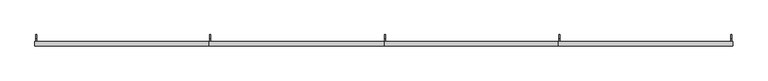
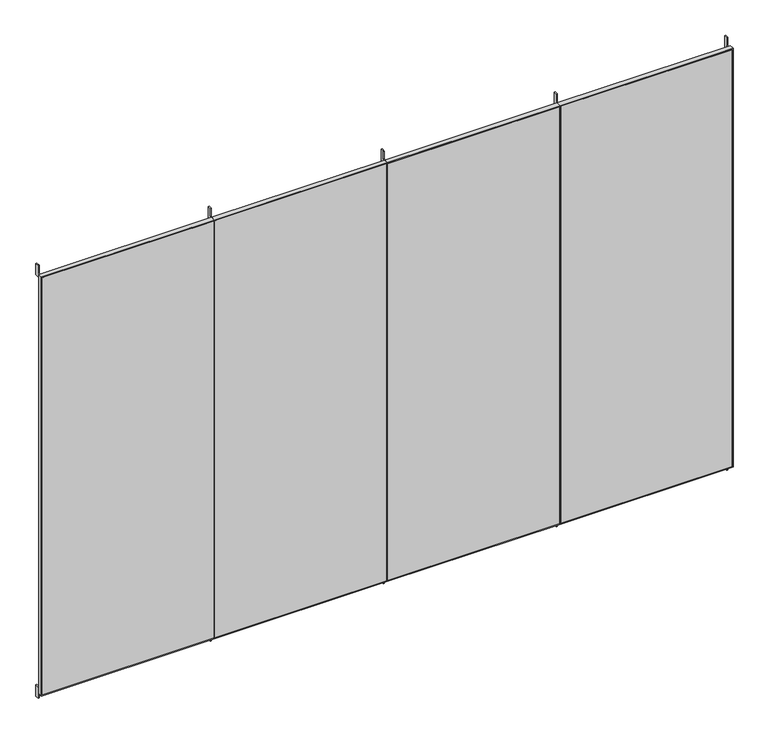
"""IFC4 building model written with IfcOpenShell, lengths in millimetres: furniture geometry, H04 Protección 4 módulos : H4.4 Protección 4 módulos 486x315."""

import ifcopenshell
import ifcopenshell.guid

model = None  # the IFC model being written
_history = None  # IfcOwnerHistory: only IFC2X3 demands one
_inside = {}  # id of a spatial element -> (the spatial element, [elements in it])
_under = {}  # id of a project, library or spatial element -> (it, [spatial elements below it])
_declared = {}  # id of a project -> (the project, [libraries it declares])
_typed = {}  # id of a type object -> (the type object, [elements of that type])
_made_of = {}  # id of a material, layer set ... -> (it, [elements and type objects made of it])


def new_model(schema):
    """Start an empty IFC model of exactly this schema.

    Asked for "IFC4X3", IfcOpenShell would pick the latest addendum, in which some entities
    have other attributes; the version numbers below select the first issue.
    IFC2X3 requires an IfcOwnerHistory on every rooted entity: one is made here for all.
    """
    global model, _history
    if schema == "IFC4X3":
        model = ifcopenshell.file(schema_version=(4, 3, 0, 0))
    else:
        model = ifcopenshell.file(schema=schema)
    _inside.clear()
    _under.clear()
    _declared.clear()
    _typed.clear()
    _made_of.clear()
    _history = None
    if model.schema == "IFC2X3":
        org = make("IfcOrganization", Name="unknown")
        user = make(
            "IfcPersonAndOrganization",
            ThePerson=make("IfcPerson", FamilyName="unknown"),
            TheOrganization=org,
        )
        app = make(
            "IfcApplication",
            ApplicationDeveloper=org,
            Version="unknown",
            ApplicationFullName="unknown",
            ApplicationIdentifier="unknown",
        )
        _history = make(
            "IfcOwnerHistory",
            OwningUser=user,
            OwningApplication=app,
            ChangeAction="ADDED",
            CreationDate=0,
        )
    return model


def make(cls, **values):
    """One entity of the class cls with the attributes given. An attribute that is None is left unset."""
    return model.create_entity(
        cls, **{name: value for name, value in values.items() if value is not None}
    )


def rooted(cls, **values):
    """An entity with a GlobalId (a new one), such as an element, a storey or a relation."""
    return make(cls, GlobalId=ifcopenshell.guid.new(), OwnerHistory=_history, **values)


def si_unit(unit_type, name, prefix=None):
    """IfcSIUnit, for example si_unit("LENGTHUNIT", "METRE", prefix="MILLI")."""
    return make("IfcSIUnit", UnitType=unit_type, Prefix=prefix, Name=name)


def assignment(units):
    """IfcUnitAssignment: the units of a project."""
    return None if units is None else make("IfcUnitAssignment", Units=units)


def point(xyz):
    """IfcCartesianPoint."""
    return None if xyz is None else make("IfcCartesianPoint", Coordinates=xyz)


def direction(xyz):
    """IfcDirection."""
    return None if xyz is None else make("IfcDirection", DirectionRatios=xyz)


def frame(location, z_axis=None, x_axis=None):
    """IfcAxis2Placement3D, a coordinate frame: its origin and axes. An axis left out is left unset."""
    return make(
        "IfcAxis2Placement3D",
        Location=point(location),
        Axis=direction(z_axis),
        RefDirection=direction(x_axis),
    )


def origin():
    """The frame at (0, 0, 0) with its axes left unset."""
    return frame((0.0, 0.0, 0.0))


def place(relative_to, where):
    """IfcLocalPlacement: puts the frame where relative to a parent placement (None: the world)."""
    return make(
        "IfcLocalPlacement", PlacementRelTo=relative_to, RelativePlacement=where
    )


def context(
    kind, dimensions, precision=None, world=None, true_north=None, identifier=None
):
    """IfcGeometricRepresentationContext, for example the 3D "Model" context."""
    return make(
        "IfcGeometricRepresentationContext",
        ContextIdentifier=identifier,
        ContextType=kind,
        CoordinateSpaceDimension=dimensions,
        Precision=precision,
        WorldCoordinateSystem=world,
        TrueNorth=true_north,
    )


def project(units=None, contexts=None):
    """IfcProject with its units and contexts."""
    return rooted(
        "IfcProject",
        Name="project",
        RepresentationContexts=contexts,
        UnitsInContext=assignment(units),
    )


def spatial(cls, under=None, at=None, **own):
    """A site, building, storey or space (cls), placed at a placement, below another one or the project."""
    s = rooted(cls, ObjectPlacement=at, **own)
    if under is not None:
        _under.setdefault(under.id(), (under, []))[1].append(s)
    return s


def polyline(points):
    """IfcPolyline through the points."""
    return make("IfcPolyline", Points=[point(p) for p in points])


def outline(outer, holes=None, kind="AREA"):
    """IfcArbitraryClosedProfileDef: a profile drawn as a closed curve; with holes, ...WithVoids."""
    if holes is None:
        return make("IfcArbitraryClosedProfileDef", ProfileType=kind, OuterCurve=outer)
    return make(
        "IfcArbitraryProfileDefWithVoids",
        ProfileType=kind,
        OuterCurve=outer,
        InnerCurves=holes,
    )


def extrude(swept, where, along, depth):
    """IfcExtrudedAreaSolid: the profile swept, set in the frame where, extruded along a direction by depth."""
    return make(
        "IfcExtrudedAreaSolid",
        SweptArea=swept,
        Position=where,
        ExtrudedDirection=direction(along),
        Depth=depth,
    )


def shape(context_of_items, identifier, shape_type, items):
    """IfcShapeRepresentation: the items that make up one representation, for example the "Body"."""
    return make(
        "IfcShapeRepresentation",
        ContextOfItems=context_of_items,
        RepresentationIdentifier=identifier,
        RepresentationType=shape_type,
        Items=items,
    )


def source(mapping_origin, context_of_items, identifier, shape_type, items):
    """IfcRepresentationMap: a shape defined once, which mapped items show again and again."""
    return make(
        "IfcRepresentationMap",
        MappingOrigin=mapping_origin,
        MappedRepresentation=shape(context_of_items, identifier, shape_type, items),
    )


def transform(
    local_origin,
    x_axis=None,
    y_axis=None,
    z_axis=None,
    scale=None,
    scale2=None,
    scale3=None,
    uniform=True,
):
    """IfcCartesianTransformationOperator3D, or its non-uniform kind. x_axis, y_axis, z_axis: its Axis1, 2, 3."""
    if uniform:
        return make(
            "IfcCartesianTransformationOperator3D",
            Axis1=direction(x_axis),
            Axis2=direction(y_axis),
            LocalOrigin=point(local_origin),
            Scale=scale,
            Axis3=direction(z_axis),
        )
    return make(
        "IfcCartesianTransformationOperator3DnonUniform",
        Axis1=direction(x_axis),
        Axis2=direction(y_axis),
        LocalOrigin=point(local_origin),
        Scale=scale,
        Axis3=direction(z_axis),
        Scale2=scale2,
        Scale3=scale3,
    )


def mapped(mapping_source, mapping_target):
    """IfcMappedItem: shows the shape of a source again, moved by a transform."""
    return make(
        "IfcMappedItem", MappingSource=mapping_source, MappingTarget=mapping_target
    )


def made_of(thing, what):
    """Note that an element or type object is made of a material, layer set ...; save() writes the relation."""
    if what is not None:
        _made_of.setdefault(what.id(), (what, []))[1].append(thing)
    return thing


def element(
    cls,
    number,
    at=None,
    inside=None,
    cuts=None,
    type_object=None,
    material=None,
    context=None,
    identifier="Body",
    shape_type=None,
    held_by="IfcProductDefinitionShape",
    body=None,
    shapes=None,
    **own,
):
    """One element of the class cls, such as IfcWall. Its Tag is "e" and its number.

    at: its placement. inside: the storey or other place that contains it. cuts: it is an
    opening in that element (IfcRelVoidsElement). A single representation is given by context,
    identifier, shape_type and body (its items); several are given by shapes. held_by: the class
    of the entity that holds the representations. save() writes the other relations.
    """
    e = rooted(cls, Tag="e%d" % number, ObjectPlacement=at, **own)
    if body is not None:
        shapes = [shape(context, identifier, shape_type, body)]
    if shapes is not None:
        e.Representation = make(held_by, Representations=shapes)
    if inside is not None:
        _inside.setdefault(inside.id(), (inside, []))[1].append(e)
    if cuts is not None:
        rooted(
            "IfcRelVoidsElement", RelatingBuildingElement=cuts, RelatedOpeningElement=e
        )
    if type_object is not None:
        _typed.setdefault(type_object.id(), (type_object, []))[1].append(e)
    return made_of(e, material)


def aggregate(whole, parts):
    """IfcRelAggregates: a whole, such as a stair, and the parts it consists of."""
    return rooted("IfcRelAggregates", RelatingObject=whole, RelatedObjects=parts)


def save(model, path):
    """Write the relations noted so far, then the file.

    IfcRelAggregates (storeys below a building ...), IfcRelContainedInSpatialStructure (elements
    in a storey), IfcRelDefinesByType, IfcRelAssociatesMaterial and IfcRelDeclares: one each for
    every whole, place, type object, material and project.
    """
    for whole, parts in _under.values():
        aggregate(whole, parts)
    for where, things in _inside.values():
        rooted(
            "IfcRelContainedInSpatialStructure",
            RelatedElements=things,
            RelatingStructure=where,
        )
    for kind, things in _typed.values():
        rooted("IfcRelDefinesByType", RelatedObjects=things, RelatingType=kind)
    for what, things in _made_of.values():
        rooted("IfcRelAssociatesMaterial", RelatedObjects=things, RelatingMaterial=what)
    for by, libraries in _declared.values():
        rooted("IfcRelDeclares", RelatingContext=by, RelatedDefinitions=libraries)
    model.write(path)


def furniture_b436540a(model_context):
    return source(origin(), model_context, "Body", "SweptSolid", [
        extrude(outline(polyline([(3100.0, 44.7003264), (3100.0, -1145.2996736), (50.0, -1145.2996736), (50.0, 44.7003264), (3100.0, 44.7003264)]), holes=[polyline([(3093.0, 41.2003264), (57.0, 41.2003264), (57.0, -1141.7996736), (3093.0, -1141.7996736), (3093.0, 41.2003264)])]), frame((0.0, -600.0, 0.0), z_axis=(0.0, 1.0, 0.0), x_axis=(0.0, 0.0, 1.0)), (0.0, 0.0, 1.0), 32.0),
        extrude(outline(polyline([(2417.7003264, -600.0), (1238.2003264, -600.0), (1238.2003264, -597.0), (2417.7003264, -597.0), (2417.7003264, -600.0)])), frame((0.0, 0.0, 57.0), z_axis=(0.0, 0.0, 1.0), x_axis=(1.0, 0.0, 0.0)), (0.0, 0.0, 1.0), 3036.0),
        extrude(outline(polyline([(3100.0, 2424.7003264), (3100.0, 1234.7003264), (50.0, 1234.7003264), (50.0, 2424.7003264), (3100.0, 2424.7003264)]), holes=[polyline([(3093.0, 2417.7003264), (57.0, 2417.7003264), (57.0, 1238.2003264), (3093.0, 1238.2003264), (3093.0, 2417.7003264)])]), frame((0.0, -600.0, 0.0), z_axis=(0.0, 1.0, 0.0), x_axis=(0.0, 0.0, 1.0)), (0.0, 0.0, 1.0), 32.0),
        extrude(outline(polyline([(1231.2003264, -600.0), (48.2003264, -600.0), (48.2003264, -597.0), (1231.2003264, -597.0), (1231.2003264, -600.0)])), frame((0.0, 0.0, 57.0), z_axis=(0.0, 0.0, 1.0), x_axis=(1.0, 0.0, 0.0)), (0.0, 0.0, 1.0), 3036.0),
        extrude(outline(polyline([(3100.0, 1234.7003264), (3100.0, 44.7003264), (50.0, 44.7003264), (50.0, 1234.7003264), (3100.0, 1234.7003264)]), holes=[polyline([(3093.0, 1231.2003264), (57.0, 1231.2003264), (57.0, 48.2003264), (3093.0, 48.2003264), (3093.0, 1231.2003264)])]), frame((0.0, -600.0, 0.0), z_axis=(0.0, 1.0, 0.0), x_axis=(0.0, 0.0, 1.0)), (0.0, 0.0, 1.0), 32.0),
        extrude(outline(polyline([(41.2003264, -600.0), (-1141.7996736, -600.0), (-1141.7996736, -597.0), (41.2003264, -597.0), (41.2003264, -600.0)])), frame((0.0, 0.0, 57.0), z_axis=(0.0, 0.0, 1.0), x_axis=(1.0, 0.0, 0.0)), (0.0, 0.0, 1.0), 3036.0),
        extrude(outline(polyline([(-1148.7996736, -600.0), (-2328.2996736, -600.0), (-2328.2996736, -597.0), (-1148.7996736, -597.0), (-1148.7996736, -600.0)])), frame((0.0, 0.0, 57.0), z_axis=(0.0, 0.0, 1.0), x_axis=(1.0, 0.0, 0.0)), (0.0, 0.0, 1.0), 3036.0),
        extrude(outline(polyline([(3100.0, -1145.2996736), (3100.0, -2335.2996736), (50.0, -2335.2996736), (50.0, -1145.2996736), (3100.0, -1145.2996736)]), holes=[polyline([(3093.0, -1148.7996736), (57.0, -1148.7996736), (57.0, -2328.2996736), (3093.0, -2328.2996736), (3093.0, -1148.7996736)])]), frame((0.0, -600.0, 0.0), z_axis=(0.0, 1.0, 0.0), x_axis=(0.0, 0.0, 1.0)), (0.0, 0.0, 1.0), 32.0),
        extrude(outline(polyline([(-522.0, 3068.0), (-597.0, 3068.0), (-597.0, 3093.0), (-547.0, 3093.0), (-547.0, 3150.0), (-522.0, 3150.0), (-522.0, 3068.0)])), frame((-2328.2996736, 0.0, 0.0), z_axis=(1.0, 0.0, 0.0), x_axis=(0.0, 1.0, 0.0)), (0.0, 0.0, 1.0), 7.0),
        extrude(outline(polyline([(-522.0, 3068.0), (-597.0, 3068.0), (-597.0, 3093.0), (-547.0, 3093.0), (-547.0, 3150.0), (-522.0, 3150.0), (-522.0, 3068.0)])), frame((-1141.7996736, 0.0, 0.0), z_axis=(1.0, 0.0, 0.0), x_axis=(0.0, 1.0, 0.0)), (0.0, 0.0, 1.0), 7.0),
        extrude(outline(polyline([(-522.0, 3068.0), (-597.0, 3068.0), (-597.0, 3093.0), (-547.0, 3093.0), (-547.0, 3150.0), (-522.0, 3150.0), (-522.0, 3068.0)])), frame((2410.7003264, 0.0, 0.0), z_axis=(1.0, 0.0, 0.0), x_axis=(0.0, 1.0, 0.0)), (0.0, 0.0, 1.0), 7.0),
        extrude(outline(polyline([(-522.0, 3068.0), (-597.0, 3068.0), (-597.0, 3093.0), (-547.0, 3093.0), (-547.0, 3150.0), (-522.0, 3150.0), (-522.0, 3068.0)])), frame((1238.2003264, 0.0, 0.0), z_axis=(1.0, 0.0, 0.0), x_axis=(0.0, 1.0, 0.0)), (0.0, 0.0, 1.0), 7.0),
        extrude(outline(polyline([(-522.0, 82.0), (-522.0, 0.0), (-547.0, 0.0), (-547.0, 57.0), (-597.0, 57.0), (-597.0, 82.0), (-522.0, 82.0)])), frame((2410.7003264, 0.0, 0.0), z_axis=(1.0, 0.0, 0.0), x_axis=(0.0, 1.0, 0.0)), (0.0, 0.0, 1.0), 7.0),
        extrude(outline(polyline([(-522.0, 82.0), (-522.0, 0.0), (-547.0, 0.0), (-547.0, 57.0), (-597.0, 57.0), (-597.0, 82.0), (-522.0, 82.0)])), frame((1238.2003264, 0.0, 0.0), z_axis=(1.0, 0.0, 0.0), x_axis=(0.0, 1.0, 0.0)), (0.0, 0.0, 1.0), 7.0),
        extrude(outline(polyline([(-522.0, 82.0), (-522.0, 0.0), (-547.0, 0.0), (-547.0, 57.0), (-597.0, 57.0), (-597.0, 82.0), (-522.0, 82.0)])), frame((-2328.2996736, 0.0, 0.0), z_axis=(1.0, 0.0, 0.0), x_axis=(0.0, 1.0, 0.0)), (0.0, 0.0, 1.0), 7.0),
        extrude(outline(polyline([(-522.0, 82.0), (-522.0, 0.0), (-547.0, 0.0), (-547.0, 57.0), (-597.0, 57.0), (-597.0, 82.0), (-522.0, 82.0)])), frame((-1141.7996736, 0.0, 0.0), z_axis=(1.0, 0.0, 0.0), x_axis=(0.0, 1.0, 0.0)), (0.0, 0.0, 1.0), 7.0),
        extrude(outline(polyline([(-522.0, 3068.0), (-597.0, 3068.0), (-597.0, 3093.0), (-547.0, 3093.0), (-547.0, 3150.0), (-522.0, 3150.0), (-522.0, 3068.0)])), frame((48.2003264, 0.0, 0.0), z_axis=(1.0, 0.0, 0.0), x_axis=(0.0, 1.0, 0.0)), (0.0, 0.0, 1.0), 7.0),
        extrude(outline(polyline([(-522.0, 82.0), (-522.0, 0.0), (-547.0, 0.0), (-547.0, 57.0), (-597.0, 57.0), (-597.0, 82.0), (-522.0, 82.0)])), frame((48.2003264, 0.0, 0.0), z_axis=(1.0, 0.0, 0.0), x_axis=(0.0, 1.0, 0.0)), (0.0, 0.0, 1.0), 7.0),
    ])


if __name__ == "__main__":
    model = new_model("IFC4")
    model_context = context("Model", 3, world=origin())
    ifc_project = project(units=[si_unit("LENGTHUNIT", "METRE", prefix="MILLI")], contexts=[model_context])
    site = spatial("IfcSite", under=ifc_project)
    building = spatial("IfcBuilding", under=site)
    placement = place(None, origin())
    furniture_shape = furniture_b436540a(model_context)
    element("IfcFurniture", 1, ObjectType="H04 Protección 4 módulos : H4.4 Protección 4 módulos 486x315", at=placement, inside=building, context=model_context, shape_type="MappedRepresentation", body=[
        mapped(furniture_shape, transform((0.0, 0.0, 0.0), x_axis=(1.0, 0.0, 0.0), y_axis=(0.0, 1.0, 0.0), z_axis=(0.0, 0.0, 1.0))),
    ])
    save(model, "model.ifc")
